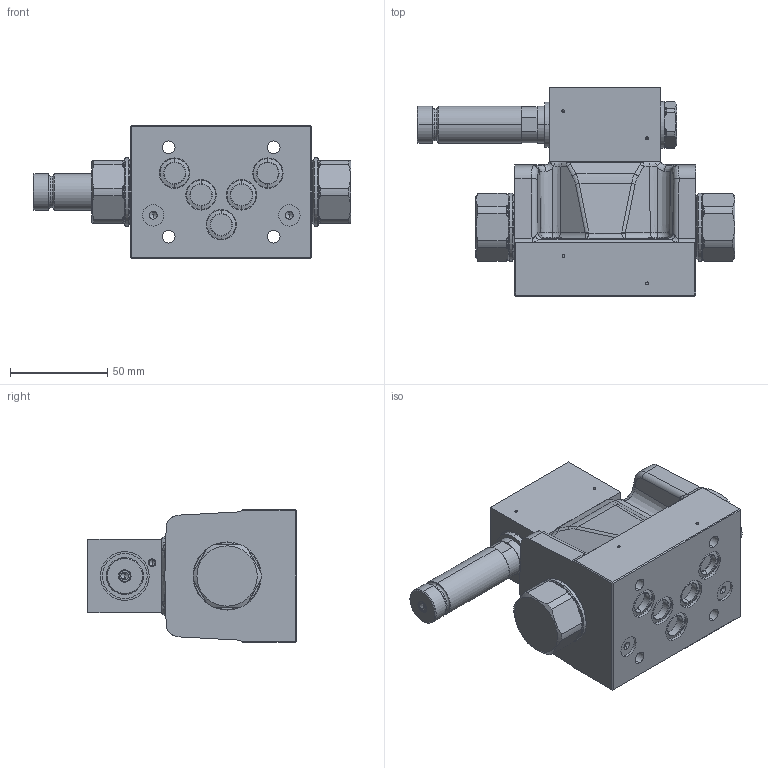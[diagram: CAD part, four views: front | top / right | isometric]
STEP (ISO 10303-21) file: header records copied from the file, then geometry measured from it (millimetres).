
FILE_DESCRIPTION (( 'STEP AP214' ), '1' );
FILE_NAME ('WVMFA10-4_2-Aside-ae_ti_xi_xe.STEP', '2017-06-15T07:25:01', ( '' ), ( '' ), 'SwSTEP 2.0', 'SolidWorks 2016', '' );
FILE_SCHEMA (( 'AUTOMOTIVE_DESIGN' ));
Length unit declared in the file: millimetre
Products named in the file (1): WVMFA10-4_2-Aside-ae_ti_xi_xe
Bounding box: 163.5 x 107.1 x 68 mm (x, y, z)
Volume: 490987.7 mm3; surface area: 68703.3 mm2
Topology: 4 solids, 5 shells, 1480 faces, 3911 edges, 2499 vertices
Faces by surface type: plane 654, cylinder 500, bspline 134, cone 111, torus 81
Entity records: 68128 total; most frequent: CARTESIAN_POINT 15903, ORIENTED_EDGE 7758, DIRECTION 7281, EDGE_CURVE 3879, AXIS2_PLACEMENT_3D 2616, VERTEX_POINT 2499, LINE 2049, VECTOR 2049
